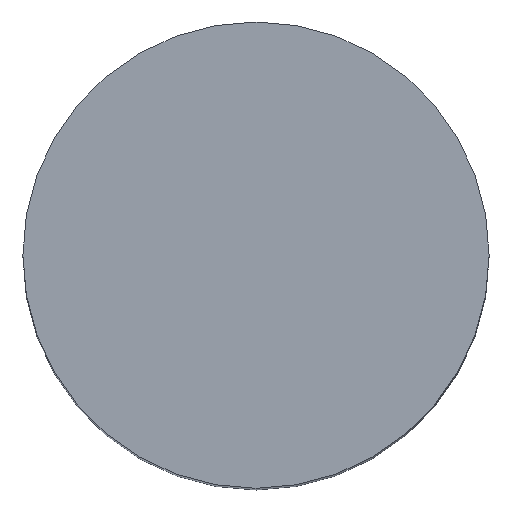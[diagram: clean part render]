
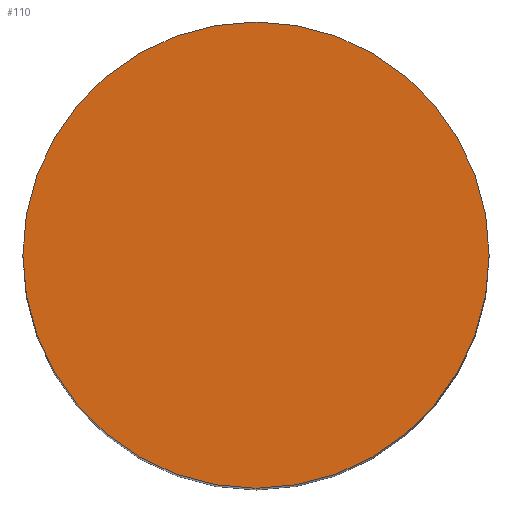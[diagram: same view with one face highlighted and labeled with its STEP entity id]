
A CAD part, top view. The second image highlights one B-rep face of the part: STEP entity #110.
In plain terms, the highlighted planar face has unit normal (0, 0, 1).
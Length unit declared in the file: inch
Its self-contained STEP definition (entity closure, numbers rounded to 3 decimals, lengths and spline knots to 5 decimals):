
#79=CARTESIAN_POINT('',(0.23622,0.,1.0));
#80=VERTEX_POINT('',#79);
#81=CARTESIAN_POINT('',(0.0,0.0,1.0));
#82=DIRECTION('',(0.0,0.0,-1.0));
#83=DIRECTION('',(-1.0,0.0,0.0));
#84=AXIS2_PLACEMENT_3D('',#81,#82,#83);
#85=CIRCLE('',#84,0.23622);
#86=EDGE_CURVE('',#80,#80,#85,.T.);
#102=CARTESIAN_POINT('',(0.0,0.0,1.0));
#103=DIRECTION('',(0.0,0.0,-1.0));
#104=DIRECTION('',(-1.0,0.0,0.0));
#105=AXIS2_PLACEMENT_3D('',#102,#103,#104);
#106=PLANE('',#105);
#107=ORIENTED_EDGE('',*,*,#86,.F.);
#108=EDGE_LOOP('',(#107));
#109=FACE_OUTER_BOUND('',#108,.T.);
#110=ADVANCED_FACE('',(#109),#106,.F.);
